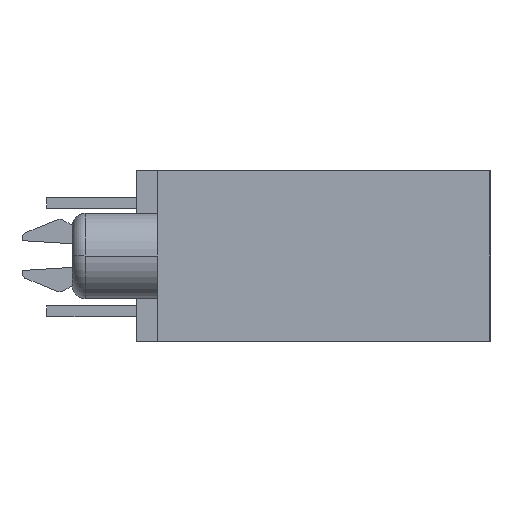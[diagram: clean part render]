
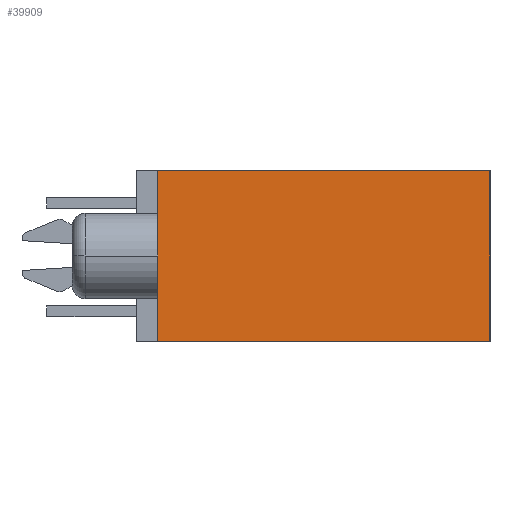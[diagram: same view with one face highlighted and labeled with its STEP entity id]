
A CAD part, left-side view. The second image highlights one B-rep face of the part: STEP entity #39909.
In plain terms, the highlighted planar face has unit normal (-1, 0, 0).
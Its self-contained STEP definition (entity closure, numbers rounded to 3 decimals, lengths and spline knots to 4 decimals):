
#14467=DIRECTION('',(0.,0.,-1.));
#14468=VECTOR('',#14467,4.);
#14469=CARTESIAN_POINT('',(0.,7.8,0.));
#14470=LINE('',#14469,#14468);
#14471=DIRECTION('',(0.,1.,0.));
#14472=VECTOR('',#14471,7.8);
#14473=CARTESIAN_POINT('',(0.,0.,0.));
#14474=LINE('',#14473,#14472);
#14475=DIRECTION('',(0.,0.,1.));
#14476=VECTOR('',#14475,4.);
#14477=CARTESIAN_POINT('',(0.,0.,-4.));
#14478=LINE('',#14477,#14476);
#14479=DIRECTION('',(0.,-1.,0.));
#14480=VECTOR('',#14479,7.8);
#14481=CARTESIAN_POINT('',(0.,7.8,-4.));
#14482=LINE('',#14481,#14480);
#16418=CARTESIAN_POINT('',(0.,7.8,-4.));
#16420=VERTEX_POINT('',#16418);
#16463=CARTESIAN_POINT('',(0.,0.,-4.));
#16464=VERTEX_POINT('',#16463);
#16467=CARTESIAN_POINT('',(0.,7.8,0.));
#16468=VERTEX_POINT('',#16467);
#16743=CARTESIAN_POINT('',(0.,0.,0.));
#16744=VERTEX_POINT('',#16743);
#39898=CARTESIAN_POINT('',(0.,3.9,-2.));
#39899=DIRECTION('',(1.,0.,0.));
#39900=DIRECTION('',(0.,-1.,0.));
#39901=AXIS2_PLACEMENT_3D('',#39898,#39899,#39900);
#39902=PLANE('',#39901);
#39903=ORIENTED_EDGE('',*,*,#20399,.F.);
#39904=ORIENTED_EDGE('',*,*,#20874,.F.);
#39905=ORIENTED_EDGE('',*,*,#39886,.F.);
#39906=ORIENTED_EDGE('',*,*,#20344,.F.);
#39907=EDGE_LOOP('',(#39903,#39904,#39905,#39906));
#39908=FACE_OUTER_BOUND('',#39907,.F.);
#39909=ADVANCED_FACE('',(#39908),#39902,.F.);
#20344=EDGE_CURVE('',#16420,#16464,#14482,.T.);
#20399=EDGE_CURVE('',#16468,#16420,#14470,.T.);
#20874=EDGE_CURVE('',#16744,#16468,#14474,.T.);
#39886=EDGE_CURVE('',#16464,#16744,#14478,.T.);
